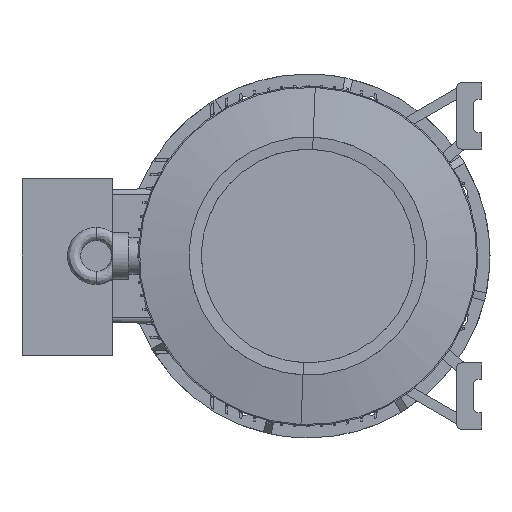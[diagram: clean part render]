
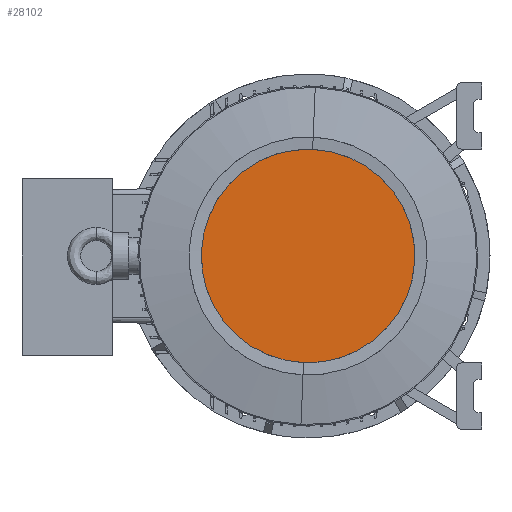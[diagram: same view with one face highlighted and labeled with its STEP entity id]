
A CAD part, left-side view. The second image highlights one B-rep face of the part: STEP entity #28102.
In plain terms, the highlighted planar face has unit normal (-1, 0, 0) as drawn and (1, 0, 0) by its records, which use the part's own axes.
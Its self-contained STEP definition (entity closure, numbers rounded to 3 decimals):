
#1522 = FACE_OUTER_BOUND ( 'NONE', #11474, .T. ) ;
#2131 = CARTESIAN_POINT ( 'NONE',  ( 338., 0., 0. ) ) ;
#2146 = DIRECTION ( 'NONE',  ( 1., 0., 0. ) ) ;
#2156 = DIRECTION ( 'NONE',  ( 0., 0., -1. ) ) ;
#2283 = CARTESIAN_POINT ( 'NONE',  ( 338., 0., 0. ) ) ;
#2289 = DIRECTION ( 'NONE',  ( 0., 0., -1. ) ) ;
#2307 = DIRECTION ( 'NONE',  ( 1., 0., 0. ) ) ;
#4135 = CARTESIAN_POINT ( 'NONE',  ( 338., 0., 193.623 ) ) ;
#4536 = CARTESIAN_POINT ( 'NONE',  ( 338., 0., -193.623 ) ) ;
#7782 = CIRCLE ( 'NONE', #8485, 193.623 ) ;
#7865 = CIRCLE ( 'NONE', #8446, 193.623 ) ;
#8446 = AXIS2_PLACEMENT_3D ( 'NONE', #2283, #2307, #2289 ) ;
#8485 = AXIS2_PLACEMENT_3D ( 'NONE', #2131, #2146, #2156 ) ;
#10368 = PLANE ( 'NONE',  #22748 ) ;
#10387 = CARTESIAN_POINT ( 'NONE',  ( 338., 193.623, 0. ) ) ;
#10398 = DIRECTION ( 'NONE',  ( 0., 0., 1. ) ) ;
#10447 = DIRECTION ( 'NONE',  ( -1., 0., 0. ) ) ;
#11474 = EDGE_LOOP ( 'NONE', ( #13270, #13280 ) ) ;
#13270 = ORIENTED_EDGE ( 'NONE', *, *, #25398, .T. ) ;
#13280 = ORIENTED_EDGE ( 'NONE', *, *, #25424, .T. ) ;
#22748 = AXIS2_PLACEMENT_3D ( 'NONE', #10387, #10447, #10398 ) ;
#25398 = EDGE_CURVE ( 'NONE', #26687, #26714, #7782, .T. ) ;
#25424 = EDGE_CURVE ( 'NONE', #26714, #26687, #7865, .T. ) ;
#26687 = VERTEX_POINT ( 'NONE', #4536 ) ;
#26714 = VERTEX_POINT ( 'NONE', #4135 ) ;
#28102 = ADVANCED_FACE ( 'NONE', ( #1522 ), #10368, .F. ) ;
